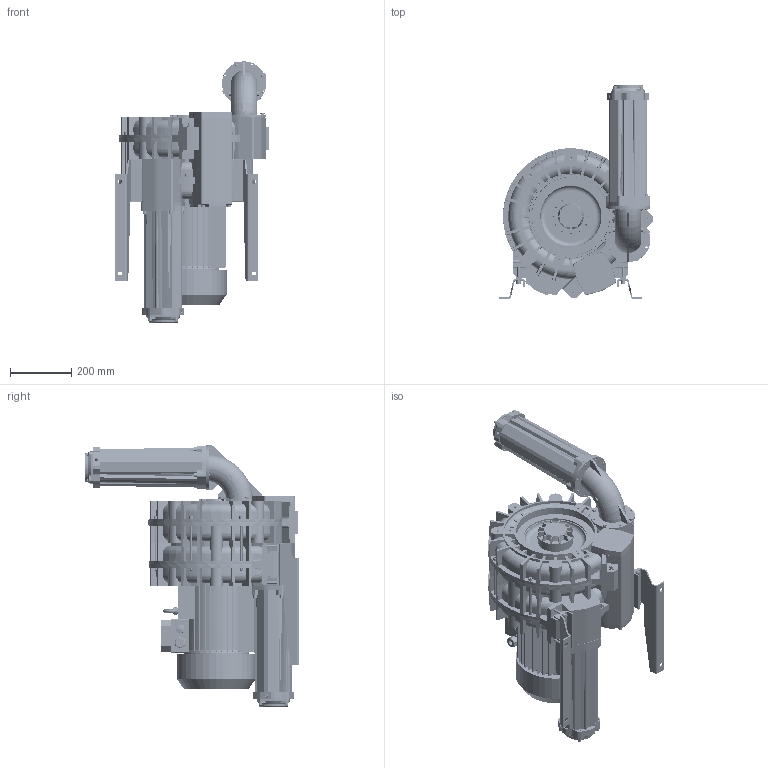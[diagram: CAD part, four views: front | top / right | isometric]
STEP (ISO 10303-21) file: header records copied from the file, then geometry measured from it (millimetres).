
FILE_DESCRIPTION (( 'STEP AP203' ), '1' );
FILE_NAME ('STP-L_e_07_TD_MOR_IE3WR_132_9.2kW-3_24-00.step', '2025-01-08T15:21:56', ( '' ), ( '' ), 'SwSTEP 2.0', 'SolidWorks 2024', '' );
FILE_SCHEMA (( 'CONFIG_CONTROL_DESIGN' ));
Length unit declared in the file: millimetre
Products named in the file (1): STP-L_e_07_TD_MOR_IE3WR_132_9.2kW-3_24-00
Bounding box: 501.29 x 698.54 x 854 mm (x, y, z)
Volume: 61045473.2 mm3; surface area: 4008036.9 mm2
Topology: 104 solids, 112 shells, 6601 faces, 17009 edges, 10649 vertices
Faces by surface type: plane 2433, cylinder 2072, bspline 930, torus 600, cone 517, sphere 49
Full cylindrical faces by diameter (mm): 5 x16, 6 x24, 6.4 x8, 6.8 x22, 7.5 x4, 8 x33, 8.4 x31, 8.5 x8, 8.566 x2, 8.8 x4, 9 x16, 9.5 x6, 9.98 x2, 10 x19, 12 x2, 12.02 x2, 13 x44, 14 x14, 16 x8, 16.5 x2, 18 x1, 19 x1, 20 x2, 21.4 x1, 24 x4, 25 x3, 28 x1, 85.3 x2, 108 x3, 115 x4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
Entity records: 278830 total; most frequent: CARTESIAN_POINT 131451, ORIENTED_EDGE 32098, DIRECTION 28484, EDGE_CURVE 16049, AXIS2_PLACEMENT_3D 11034, VERTEX_POINT 10373, EDGE_LOOP 7516, FACE_OUTER_BOUND 7011
